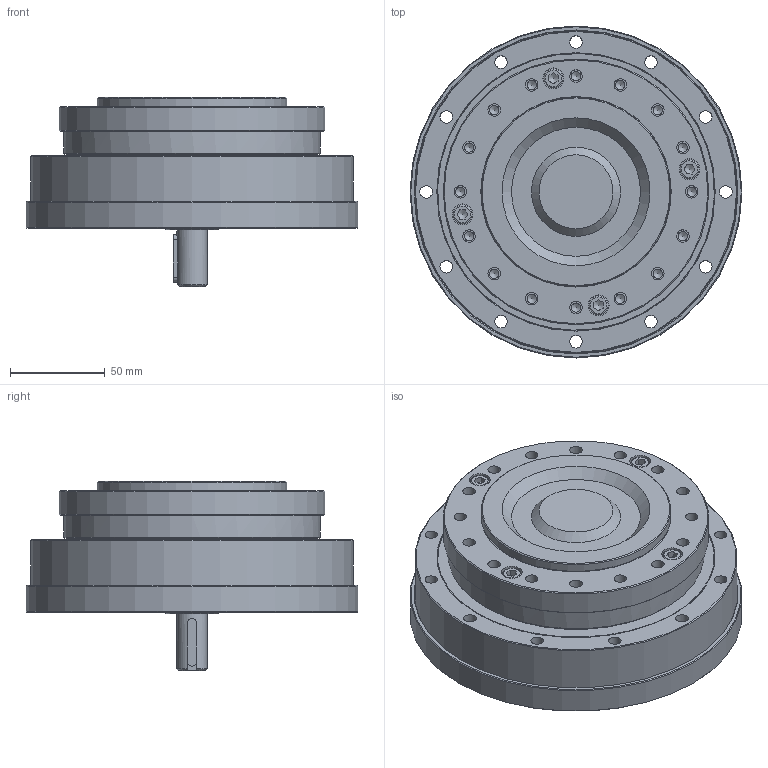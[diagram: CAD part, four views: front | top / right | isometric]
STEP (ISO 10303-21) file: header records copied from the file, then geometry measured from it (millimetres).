
FILE_DESCRIPTION(/* description */ (''),/* implementation_level */ '2;1');
FILE_NAME(/* name */ 'S:\TB00F\研發課二組\機密級\97.\X2\540C4EC151714EAB5340\X0\ (機密級)\H11\欣怡\2023專案追蹤\2.型錄\模型\\X2\5B987DB2\X0\3D檔(NEW)\DGH-AJ\DGH-40-XX-AJ.stp',/* time_stamp */ '2024-09-12T17:00:31+08:00',/* author */ ('bb1128.zheng'),/* organization */ (''),/* preprocessor_version */ 'ST-DEVELOPER v15.2',/* originating_system */ 'Autodesk Inventor 2014',/* authorisation */ '');
FILE_SCHEMA (('AUTOMOTIVE_DESIGN { 1 0 10303 214 3 1 1 }'));
Length unit declared in the file: centimetre
Products named in the file (1): DGH-40-XX-AJ.
Bounding box: 175 x 175 x 100 mm (x, y, z)
Volume: 1258848.7 mm3; surface area: 128747.9 mm2
Topology: 1 solids, 28 shells, 487 faces, 1047 edges, 678 vertices
Faces by surface type: plane 184, cylinder 146, cone 127, torus 30
Full cylindrical faces by diameter (mm): 3.242 x6, 4 x6, 4.134 x5, 4.5 x12, 4.917 x16, 6 x4, 6.6 x56, 7.6 x6, 8 x6, 10 x4, 11 x4, 16 x1, 17 x1, 45 x1, 100 x1, 107.786 x1, 108 x2, 108.2 x2, 112.6 x2, 135 x2, 140 x1, 146 x1, 170 x3, 175 x1
Entity records: 10791 total; most frequent: DIRECTION 1939, CARTESIAN_POINT 1786, ORIENTED_EDGE 1226, EDGE_LOOP 907, AXIS2_PLACEMENT_3D 901, EDGE_CURVE 613, VERTEX_POINT 544, FACE_BOUND 493
